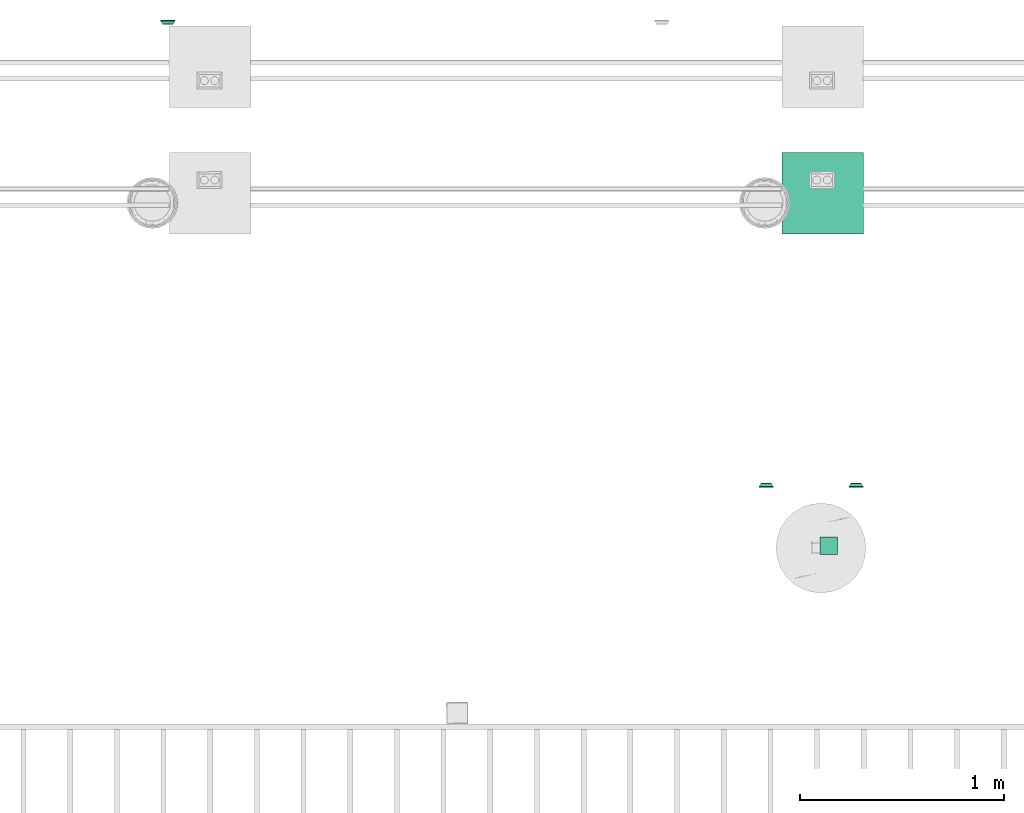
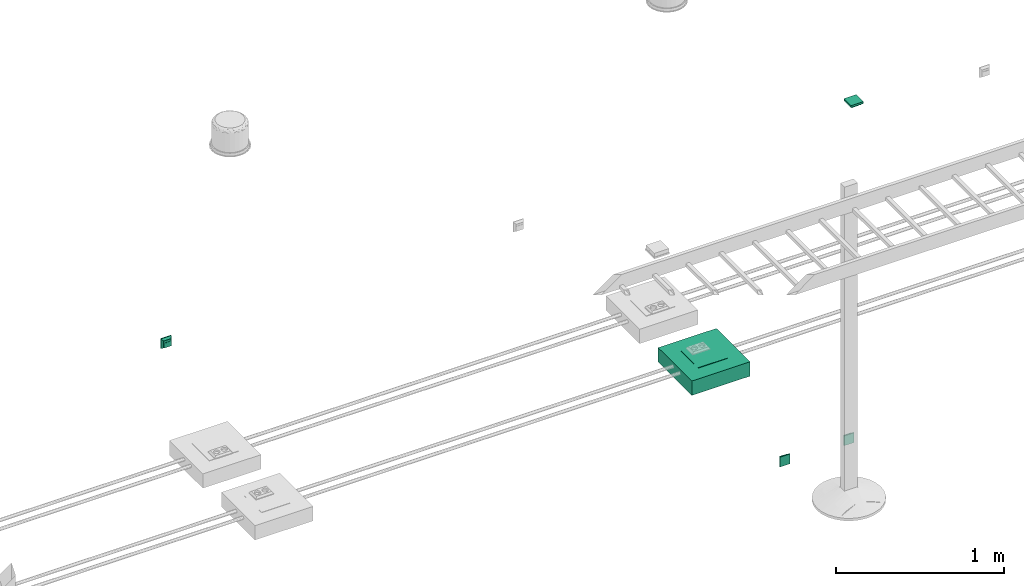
# One storey, part 16 of 24: 5 flow terminals.
"""IFC2X3 building model written with IfcOpenShell, lengths in millimetres."""

from ifc_helpers import new_model, entity, si_unit, converted_unit, derived_unit, direction, frame, origin_with_axes, place, context, subcontext, project, spatial, open_shell, surface_model, source, transform, mapped, type_object, element, save


model = new_model("IFC2X3")

# Units and contexts
model_context = context("Model", 3, precision=0.01, world=frame((0.0, 4.29681676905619e-09, 0.0)), true_north=direction((4.01073788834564e-13, 1.0)))
plan_context = context("Plan", 3, precision=0.01, world=frame((0.0, 4.29681676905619e-09, 0.0)), true_north=direction((4.01073788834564e-13, 1.0)))
body_context = subcontext(model_context, "Body", "Model", "MODEL_VIEW")
ifc_project = project(units=[converted_unit("PLANEANGLEUNIT", "DEGREE", entity("IfcPositiveLengthMeasure", 0.0174532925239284), si_unit("PLANEANGLEUNIT", "RADIAN"), dimensions=[0, 0, 0, 0, 0, 0, 0]), si_unit("AREAUNIT", "SQUARE_METRE"), si_unit("LENGTHUNIT", "METRE", prefix="MILLI"), si_unit("MASSUNIT", "GRAM", prefix="KILO"), si_unit("POWERUNIT", "WATT"), si_unit("PRESSUREUNIT", "PASCAL"), si_unit("FORCEUNIT", "NEWTON", prefix="KILO"), si_unit("ELECTRICVOLTAGEUNIT", "VOLT"), si_unit("ELECTRICCURRENTUNIT", "AMPERE"), si_unit("THERMODYNAMICTEMPERATUREUNIT", "DEGREE_CELSIUS"), si_unit("TIMEUNIT", "SECOND"), si_unit("VOLUMEUNIT", "CUBIC_METRE"), derived_unit("LINEARVELOCITYUNIT", [(si_unit("LENGTHUNIT", "METRE"), 1), (si_unit("TIMEUNIT", "SECOND"), -1)]), derived_unit("VOLUMETRICFLOWRATEUNIT", [(si_unit("VOLUMEUNIT", "CUBIC_METRE"), 1), (si_unit("TIMEUNIT", "SECOND"), -1)]), derived_unit("THERMALTRANSMITTANCEUNIT", [(si_unit("POWERUNIT", "WATT"), 1), (si_unit("THERMODYNAMICTEMPERATUREUNIT", "KELVIN"), -1), (si_unit("AREAUNIT", "SQUARE_METRE"), -1)]), derived_unit("SOUNDPRESSUREUNIT", [(si_unit("PRESSUREUNIT", "PASCAL"), 1)])], contexts=[model_context, plan_context])

# Site, building, storey
site_placement = place(None, frame((0.0, -4.29681676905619e-09, 0.0), z_axis=(0.0, 0.0, 1.0), x_axis=(1.0, 0.0, 0.0)))
site = spatial("IfcSite", under=ifc_project, at=site_placement, Name="ENGM", CompositionType="ELEMENT")
building_placement = place(site_placement, frame((0.0, 4.29681676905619e-09, 0.0), z_axis=(0.0, 0.0, 1.0), x_axis=(1.0, 0.0, 0.0)))
building = spatial("IfcBuilding", under=site, at=building_placement, Name="TH", CompositionType="ELEMENT")
storey_placement = place(building_placement, frame((0.0, 0.0, 210200.0), z_axis=(0.0, 0.0, 1.0), x_axis=(1.0, 0.0, 0.0)))
storey = spatial("IfcBuildingStorey", under=building, at=storey_placement, Name="Nivå F - 0,7 m", CompositionType="ELEMENT", Elevation=210200.0)

# Flow terminals
electric_appliance_type = type_object("IfcElectricApplianceType", Name="Gulvboks 400x400", PredefinedType="NOTDEFINED")
shared_shape_1 = source(origin_with_axes(), body_context, "Body", "SurfaceModel", [
    surface_model("IfcShellBasedSurfaceModel", [(199.96, -199.96, -8.96812), (199.96, 200.0, -8.96812), (-200.0, 200.0, -8.96812), (-200.0, -199.96, -8.96812), (-200.0, -199.96, -108.96812), (-200.0, 200.0, -108.96812), (199.96, -199.96, -108.96812), (199.96, 200.0, -108.96812), (99.91278, -102.96181, -1.48406), (99.91278, 100.0, -1.48406), (-100.0, -102.96181, -1.48406), (-100.0, 100.0, -1.48406), (-100.0, -102.96181, -4.48406), (-100.0, 100.0, -4.48406), (99.91278, 100.0, -4.48406), (99.91278, -102.96181, -4.48406), (199.96, -199.96, -4.48406), (199.96, 200.0, -4.48406), (-200.0, 200.0, -4.48406), (-200.0, -199.96, -4.48406), (-200.0, -199.96, -104.48406), (-200.0, 200.0, -104.48406), (199.96, -199.96, -104.48406), (199.96, 200.0, -104.48406)], [open_shell([[[0, 1, 2]], [[2, 3, 0]], [[4, 5, 6]], [[7, 6, 5]], [[2, 1, 7]], [[7, 5, 2]], [[3, 2, 5]], [[5, 4, 3]], [[0, 3, 4]], [[4, 6, 0]], [[1, 0, 6]], [[6, 7, 1]], [[8, 9, 10]], [[11, 10, 9]], [[12, 13, 14]], [[14, 15, 12]], [[11, 9, 14]], [[14, 13, 11]], [[10, 11, 13]], [[13, 12, 10]], [[8, 10, 12]], [[12, 15, 8]], [[9, 8, 15]], [[15, 14, 9]], [[16, 17, 18]], [[18, 19, 16]], [[20, 21, 22]], [[23, 22, 21]], [[18, 17, 23]], [[23, 21, 18]], [[19, 18, 21]], [[21, 20, 19]], [[16, 19, 20]], [[20, 22, 16]], [[17, 16, 22]], [[22, 23, 17]]])]),
])
flow_terminal_1_placement = place(storey_placement, frame((903999.725, 486379.56407, 1.5), z_axis=(0.0, 0.0, 1.0), x_axis=(1.0, 0.0, 0.0)))
element("IfcFlowTerminal", 1, at=flow_terminal_1_placement, inside=storey, type_object=electric_appliance_type, Name="Gulvboks 400x400", context=body_context, shape_type="MappedRepresentation", body=[
    mapped(shared_shape_1, transform((0.0, 0.0, 0.0), scale=1.0)),
])
outlet_type_1 = type_object("IfcOutletType", Name="Datauttak dobbel Tak - WLAN", PredefinedType="COMMUNICATIONSOUTLET")
shared_shape_2 = source(origin_with_axes(), body_context, "Body", "SurfaceModel", [
    surface_model("IfcShellBasedSurfaceModel", [(42.5, 42.4761, -11.68863), (32.5, 32.48658, -21.6991), (-42.5, 42.4761, -11.68863), (-32.5, 32.48658, -21.6991), (-42.5, 42.33453, -11.54735), (-32.5, 32.34501, -21.55782), (42.5, 42.33453, -11.54735), (32.5, 32.34501, -21.55782), (42.5, -42.524, -11.63622), (32.5, -32.51353, -21.62574), (-42.5, -42.524, -11.63622), (-32.5, -32.51353, -21.62574), (-42.5, -42.66527, -11.77779), (-32.5, -32.65481, -21.76731), (42.5, -42.66527, -11.77779), (32.5, -32.65481, -21.76731), (-32.57071, -32.5841, -21.76724), (-42.57071, -42.59456, -11.77771), (-32.57071, 32.41587, -21.69917), (-42.57071, 42.40539, -11.6887), (-32.42929, 32.41572, -21.55775), (-42.42929, 42.40524, -11.54728), (-32.42929, -32.58424, -21.62581), (-42.42929, -42.59471, -11.63629), (32.42929, -32.58424, -21.62581), (42.42929, -42.59471, -11.63629), (32.42929, 32.41572, -21.55775), (42.42929, 42.40524, -11.54728), (32.57071, 32.41587, -21.69917), (42.57071, 42.40539, -11.6887), (32.57071, -32.5841, -21.76724), (42.57071, -42.59456, -11.77771), (42.4, -42.59463, -11.707), (42.4, -42.59987, -6.70701), (42.4, 42.40532, -11.61799), (42.4, 42.40008, -6.61799), (42.6, 42.40532, -11.61799), (42.6, 42.40008, -6.61799), (42.6, -42.59463, -11.707), (42.6, -42.59987, -6.70701), (-42.5, -42.69987, -6.70711), (-42.5, -42.69464, -11.70711), (42.5, -42.69987, -6.70711), (42.5, -42.69464, -11.70711), (42.5, -42.49987, -6.7069), (42.5, -42.49464, -11.7069), (-42.5, -42.49987, -6.7069), (-42.5, -42.49464, -11.7069), (-42.6, -42.59463, -11.707), (-42.6, -42.59987, -6.70701), (-42.6, 42.40532, -11.61799), (-42.6, 42.40008, -6.61799), (-42.4, 42.40532, -11.61799), (-42.4, 42.40008, -6.61799), (-42.4, -42.59463, -11.707), (-42.4, -42.59987, -6.70701), (-42.5, -42.59998, -6.60701), (42.5, -42.59998, -6.60701), (42.5, 42.39998, -6.51799), (-42.5, 42.39998, -6.51799), (-42.5, 42.40019, -6.71799), (42.5, 42.40019, -6.71799), (42.5, -42.59977, -6.80701), (-42.5, -42.59977, -6.80701), (-42.5, 42.30008, -6.6181), (-42.5, 42.30532, -11.6181), (42.5, 42.30008, -6.6181), (42.5, 42.30532, -11.6181), (42.5, 42.50008, -6.61789), (42.5, 42.50532, -11.61789), (-42.5, 42.50008, -6.61789), (-42.5, 42.50532, -11.61789), (-32.5, -32.58427, -21.59653), (32.5, -32.58427, -21.59653), (32.5, 32.41569, -21.52846), (-32.5, 32.41569, -21.52846), (-32.5, 32.4159, -21.72846), (32.5, 32.4159, -21.72846), (-32.5, -32.58406, -21.79653), (32.5, -32.58406, -21.79653), (-17.5, 0.41781, -23.57197), (-2.5, 0.41781, -23.57197), (-2.5, 15.4178, -23.55626), (-17.5, 15.4178, -23.55626), (-17.5, 15.41801, -23.75626), (-2.5, 15.41801, -23.75626), (-17.5, 0.41802, -23.77197), (-2.5, 0.41802, -23.77197), (2.5, 0.41781, -23.57197), (17.5, 0.41781, -23.57197), (17.5, 15.4178, -23.55626), (2.5, 15.4178, -23.55626), (2.5, 15.41801, -23.75626), (17.5, 15.41801, -23.75626), (2.5, 0.41802, -23.77197), (17.5, 0.41802, -23.77197), (-32.5, 32.41789, -23.62846), (-32.5, 32.41579, -21.62846), (32.5, 32.41789, -23.62846), (32.5, 32.41579, -21.62846), (32.5, 27.41789, -23.63369), (32.5, 27.4158, -21.63369), (-32.5, 27.41789, -23.63369), (-32.5, 27.4158, -21.63369), (-32.5, 17.4179, -23.64416), (-32.5, 17.4158, -21.64417), (32.5, 17.4179, -23.64416), (32.5, 17.4158, -21.64417), (32.5, -32.58208, -23.69652), (32.5, -32.58417, -21.69652), (-32.5, -32.58208, -23.69652), (-32.5, -32.58417, -21.69652), (42.4, -42.59463, 2.0), (42.4, 42.30008, 2.0), (-42.5, 42.30008, 2.0), (-42.5, -42.59463, 2.0), (-42.5, -42.59463, -6.6181), (42.4, 42.30008, -6.6181), (42.4, -42.59463, -6.6181)], [open_shell([[[0, 1, 2]], [[3, 2, 1]], [[4, 5, 6]], [[7, 6, 5]], [[3, 1, 5]], [[7, 5, 1]], [[2, 3, 5]], [[5, 4, 2]], [[0, 2, 4]], [[4, 6, 0]], [[1, 0, 6]], [[6, 7, 1]], [[8, 9, 10]], [[11, 10, 9]], [[12, 13, 14]], [[15, 14, 13]], [[11, 9, 13]], [[15, 13, 9]], [[10, 11, 13]], [[13, 12, 10]], [[8, 10, 12]], [[12, 14, 8]], [[9, 8, 14]], [[14, 15, 9]], [[16, 17, 18]], [[19, 18, 17]], [[20, 21, 22]], [[23, 22, 21]], [[19, 17, 23]], [[23, 21, 19]], [[18, 19, 21]], [[21, 20, 18]], [[16, 18, 20]], [[20, 22, 16]], [[17, 16, 22]], [[22, 23, 17]], [[24, 25, 26]], [[27, 26, 25]], [[28, 29, 30]], [[31, 30, 29]], [[27, 25, 31]], [[31, 29, 27]], [[26, 27, 28]], [[29, 28, 27]], [[24, 26, 28]], [[28, 30, 24]], [[25, 24, 30]], [[30, 31, 25]], [[32, 33, 34]], [[35, 34, 33]], [[36, 37, 38]], [[39, 38, 37]], [[35, 33, 39]], [[39, 37, 35]], [[34, 35, 36]], [[37, 36, 35]], [[32, 34, 36]], [[36, 38, 32]], [[33, 32, 39]], [[38, 39, 32]], [[40, 41, 42]], [[43, 42, 41]], [[44, 45, 46]], [[47, 46, 45]], [[41, 40, 46]], [[46, 47, 41]], [[40, 42, 44]], [[44, 46, 40]], [[42, 43, 45]], [[45, 44, 42]], [[43, 41, 47]], [[47, 45, 43]], [[48, 49, 50]], [[51, 50, 49]], [[52, 53, 54]], [[55, 54, 53]], [[51, 49, 55]], [[55, 53, 51]], [[50, 51, 52]], [[53, 52, 51]], [[48, 50, 52]], [[52, 54, 48]], [[49, 48, 55]], [[54, 55, 48]], [[56, 57, 58]], [[58, 59, 56]], [[60, 61, 62]], [[62, 63, 60]], [[58, 57, 62]], [[62, 61, 58]], [[59, 58, 61]], [[61, 60, 59]], [[56, 59, 60]], [[60, 63, 56]], [[57, 56, 63]], [[63, 62, 57]], [[64, 65, 66]], [[67, 66, 65]], [[68, 69, 70]], [[71, 70, 69]], [[65, 64, 70]], [[70, 71, 65]], [[64, 66, 68]], [[68, 70, 64]], [[66, 67, 69]], [[69, 68, 66]], [[67, 65, 71]], [[71, 69, 67]], [[72, 73, 74]], [[74, 75, 72]], [[76, 77, 78]], [[79, 78, 77]], [[74, 73, 79]], [[79, 77, 74]], [[75, 74, 77]], [[77, 76, 75]], [[72, 75, 78]], [[76, 78, 75]], [[73, 72, 78]], [[78, 79, 73]], [[80, 81, 82]], [[82, 83, 80]], [[84, 85, 86]], [[87, 86, 85]], [[82, 81, 85]], [[87, 85, 81]], [[83, 82, 85]], [[85, 84, 83]], [[80, 83, 86]], [[84, 86, 83]], [[81, 80, 86]], [[86, 87, 81]], [[88, 89, 90]], [[90, 91, 88]], [[92, 93, 94]], [[95, 94, 93]], [[90, 89, 93]], [[95, 93, 89]], [[91, 90, 93]], [[93, 92, 91]], [[88, 91, 94]], [[92, 94, 91]], [[89, 88, 94]], [[94, 95, 89]], [[96, 97, 98]], [[99, 98, 97]], [[100, 101, 102]], [[103, 102, 101]], [[99, 97, 103]], [[103, 101, 99]], [[98, 99, 101]], [[101, 100, 98]], [[96, 98, 100]], [[100, 102, 96]], [[97, 96, 103]], [[102, 103, 96]], [[104, 105, 106]], [[107, 106, 105]], [[108, 109, 110]], [[111, 110, 109]], [[107, 105, 111]], [[111, 109, 107]], [[106, 107, 109]], [[109, 108, 106]], [[104, 106, 108]], [[108, 110, 104]], [[105, 104, 110]], [[110, 111, 105]], [[112, 113, 114]], [[114, 115, 112]], [[116, 64, 117]], [[117, 118, 116]], [[114, 113, 117]], [[117, 64, 114]], [[115, 114, 64]], [[64, 116, 115]], [[112, 115, 116]], [[116, 118, 112]], [[113, 112, 118]], [[118, 117, 113]]])]),
])
flow_terminal_2_placement = place(storey_placement, frame((904030.346, 484653.29523, 2880.0), z_axis=(0.0, 0.0, 1.0), x_axis=(0.00664599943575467, -0.999977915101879, 0.0)))
element("IfcFlowTerminal", 2, at=flow_terminal_2_placement, inside=storey, type_object=outlet_type_1, Name="Datauttak dobbel Tak - WLAN", context=body_context, shape_type="MappedRepresentation", body=[
    mapped(shared_shape_2, transform((0.0, 0.0, 0.0), scale=1.0)),
])
outlet_type_2 = type_object("IfcOutletType", Name="Datauttak dobbel Vegg - IKT", PredefinedType="COMMUNICATIONSOUTLET")
shared_shape_3 = source(origin_with_axes(), body_context, "Body", "SurfaceModel", [
    surface_model("IfcShellBasedSurfaceModel", [(35.5, 5.05547, 35.5832), (25.5, 20.05547, 25.5832), (-35.5, 5.05547, 35.5832), (-25.5, 20.05547, 25.5832), (-35.5, 4.94453, 35.41679), (-25.5, 19.94453, 25.41679), (25.5, 19.94453, 25.41679), (35.5, 4.94453, 35.41679), (35.5, 4.94453, -35.41679), (25.5, 19.94453, -25.41679), (-35.5, 4.94453, -35.41679), (-25.5, 19.94453, -25.41679), (-35.5, 5.05547, -35.5832), (-25.5, 20.05547, -25.5832), (25.5, 20.05547, -25.5832), (35.5, 5.05547, -35.5832), (-25.5832, 20.05547, -25.5), (-35.5832, 5.05547, -35.5), (-35.5832, 5.05547, 35.5), (-25.5832, 20.05547, 25.5), (-25.41679, 19.94453, 25.5), (-35.41679, 4.94453, 35.5), (-25.41679, 19.94453, -25.5), (-35.41679, 4.94453, -35.5), (25.41679, 19.94453, -25.5), (35.41679, 4.94453, -35.5), (35.41679, 4.94453, 35.5), (25.41679, 19.94453, 25.5), (25.5832, 20.05547, 25.5), (35.5832, 5.05547, 35.5), (25.5832, 20.05547, -25.5), (35.5832, 5.05547, -35.5), (35.4, 5.0, -35.5), (35.4, 0.0, -35.5), (35.4, 0.0, 35.5), (35.4, 5.0, 35.5), (35.6, 5.0, 35.5), (35.6, 0.0, 35.5), (35.6, 0.0, -35.5), (35.6, 5.0, -35.5), (-35.5, 0.0, -35.6), (-35.5, 5.0, -35.6), (35.5, 5.0, -35.6), (35.5, 0.0, -35.6), (35.5, 0.0, -35.4), (35.5, 5.0, -35.4), (-35.5, 5.0, -35.4), (-35.5, 0.0, -35.4), (-35.6, 5.0, -35.5), (-35.6, 0.0, -35.5), (-35.6, 0.0, 35.5), (-35.6, 5.0, 35.5), (-35.4, 5.0, 35.5), (-35.4, 0.0, 35.5), (-35.4, 0.0, -35.5), (-35.4, 5.0, -35.5), (-35.5, -0.1, -35.5), (35.5, -0.1, -35.5), (35.5, -0.1, 35.5), (-35.5, -0.1, 35.5), (-35.5, 0.1, 35.5), (35.5, 0.1, 35.5), (35.5, 0.1, -35.5), (-35.5, 0.1, -35.5), (-35.5, 0.0, 35.4), (-35.5, 5.0, 35.4), (35.5, 5.0, 35.4), (35.5, 0.0, 35.4), (35.5, 0.0, 35.6), (35.5, 5.0, 35.6), (-35.5, 5.0, 35.6), (-35.5, 0.0, 35.6), (-25.5, 19.9, -25.5), (25.5, 19.9, -25.5), (25.5, 19.9, 25.5), (-25.5, 19.9, 25.5), (-25.5, 20.1, 25.5), (25.5, 20.1, 25.5), (25.5, 20.1, -25.5), (-25.5, 20.1, -25.5), (-17.5, 21.91, -6.5), (-2.5, 21.91, -6.5), (-17.5, 21.91, 8.5), (-2.5, 21.91, 8.5), (-17.5, 22.11, 8.5), (-2.5, 22.11, 8.5), (-17.5, 22.11, -6.5), (-2.5, 22.11, -6.5), (2.5, 21.91, -6.5), (17.5, 21.91, -6.5), (17.5, 21.91, 8.5), (2.5, 21.91, 8.5), (2.5, 22.11, 8.5), (17.5, 22.11, 8.5), (2.5, 22.11, -6.5), (17.5, 22.11, -6.5), (-25.5, 22.0, 25.5), (-25.5, 20.0, 25.5), (25.5, 20.0, 25.5), (25.5, 22.0, 25.5), (25.5, 22.0, 20.5), (25.5, 20.0, 20.5), (-25.5, 20.0, 20.5), (-25.5, 22.0, 20.5), (-25.5, 22.0, 10.5), (-25.5, 20.0, 10.5), (25.5, 20.0, 10.5), (25.5, 22.0, 10.5), (25.5, 22.0, -25.5), (25.5, 20.0, -25.5), (-25.5, 20.0, -25.5), (-25.5, 22.0, -25.5)], [open_shell([[[0, 1, 2]], [[3, 2, 1]], [[4, 5, 6]], [[6, 7, 4]], [[3, 1, 6]], [[6, 5, 3]], [[2, 3, 4]], [[5, 4, 3]], [[0, 2, 7]], [[4, 7, 2]], [[1, 0, 6]], [[7, 6, 0]], [[8, 9, 10]], [[11, 10, 9]], [[12, 13, 14]], [[14, 15, 12]], [[11, 9, 14]], [[14, 13, 11]], [[10, 11, 12]], [[13, 12, 11]], [[8, 10, 12]], [[12, 15, 8]], [[9, 8, 14]], [[15, 14, 8]], [[16, 17, 18]], [[18, 19, 16]], [[20, 21, 22]], [[23, 22, 21]], [[18, 17, 23]], [[23, 21, 18]], [[19, 18, 20]], [[21, 20, 18]], [[16, 19, 20]], [[20, 22, 16]], [[17, 16, 22]], [[22, 23, 17]], [[24, 25, 26]], [[26, 27, 24]], [[28, 29, 30]], [[31, 30, 29]], [[26, 25, 31]], [[31, 29, 26]], [[27, 26, 28]], [[29, 28, 26]], [[24, 27, 28]], [[28, 30, 24]], [[25, 24, 30]], [[30, 31, 25]], [[32, 33, 34]], [[34, 35, 32]], [[36, 37, 38]], [[38, 39, 36]], [[34, 33, 38]], [[38, 37, 34]], [[35, 34, 37]], [[37, 36, 35]], [[32, 35, 36]], [[36, 39, 32]], [[33, 32, 39]], [[39, 38, 33]], [[40, 41, 42]], [[42, 43, 40]], [[44, 45, 46]], [[46, 47, 44]], [[42, 41, 46]], [[46, 45, 42]], [[43, 42, 45]], [[45, 44, 43]], [[40, 43, 44]], [[44, 47, 40]], [[41, 40, 47]], [[47, 46, 41]], [[48, 49, 50]], [[50, 51, 48]], [[52, 53, 54]], [[54, 55, 52]], [[50, 49, 54]], [[54, 53, 50]], [[51, 50, 53]], [[53, 52, 51]], [[48, 51, 52]], [[52, 55, 48]], [[49, 48, 55]], [[55, 54, 49]], [[56, 57, 58]], [[58, 59, 56]], [[60, 61, 62]], [[62, 63, 60]], [[58, 57, 62]], [[62, 61, 58]], [[59, 58, 61]], [[61, 60, 59]], [[56, 59, 60]], [[60, 63, 56]], [[57, 56, 63]], [[63, 62, 57]], [[64, 65, 66]], [[66, 67, 64]], [[68, 69, 70]], [[70, 71, 68]], [[66, 65, 70]], [[70, 69, 66]], [[67, 66, 69]], [[69, 68, 67]], [[64, 67, 68]], [[68, 71, 64]], [[65, 64, 71]], [[71, 70, 65]], [[72, 73, 74]], [[74, 75, 72]], [[76, 77, 78]], [[78, 79, 76]], [[74, 73, 78]], [[78, 77, 74]], [[75, 74, 77]], [[77, 76, 75]], [[72, 75, 76]], [[76, 79, 72]], [[73, 72, 79]], [[79, 78, 73]], [[80, 81, 82]], [[83, 82, 81]], [[84, 85, 86]], [[87, 86, 85]], [[83, 81, 87]], [[87, 85, 83]], [[82, 83, 85]], [[85, 84, 82]], [[80, 82, 84]], [[84, 86, 80]], [[81, 80, 86]], [[86, 87, 81]], [[88, 89, 90]], [[90, 91, 88]], [[92, 93, 94]], [[95, 94, 93]], [[90, 89, 95]], [[95, 93, 90]], [[91, 90, 93]], [[93, 92, 91]], [[88, 91, 92]], [[92, 94, 88]], [[89, 88, 94]], [[94, 95, 89]], [[96, 97, 98]], [[98, 99, 96]], [[100, 101, 102]], [[102, 103, 100]], [[98, 97, 102]], [[102, 101, 98]], [[99, 98, 101]], [[101, 100, 99]], [[96, 99, 100]], [[100, 103, 96]], [[97, 96, 103]], [[103, 102, 97]], [[104, 105, 106]], [[106, 107, 104]], [[108, 109, 110]], [[110, 111, 108]], [[106, 105, 110]], [[110, 109, 106]], [[107, 106, 109]], [[109, 108, 107]], [[104, 107, 108]], [[108, 111, 104]], [[105, 104, 111]], [[111, 110, 105]]])]),
])
for number, where, z_axis, x_axis, name in (
    (3, (903723.39199, 484938.26665, 200.0), (0.0, 0.0, 1.0), (1.0, 0.0, 0.0), "Datauttak dobbel Vegg - IKT"),
    (4, (904163.39199, 484938.26665, 200.0), (0.0, 0.0, 1.0), (1.0, 0.0, 0.0), "Datauttak dobbel Vegg - IKT"),
    (5, (900792.58742, 487228.81682, 700.0), (0.0, 0.0, 1.0), (-1.0, 0.0, 0.0), "Datauttak dobbel Vegg - IKT"),
):
    element("IfcFlowTerminal", number, at=place(storey_placement, frame(where, z_axis=z_axis, x_axis=x_axis)), inside=storey, type_object=outlet_type_2, Name=name, context=body_context, shape_type="MappedRepresentation", body=[
        mapped(shared_shape_3, transform((0.0, 0.0, 0.0), scale=1.0)),
    ])

save(model, "model.ifc")
